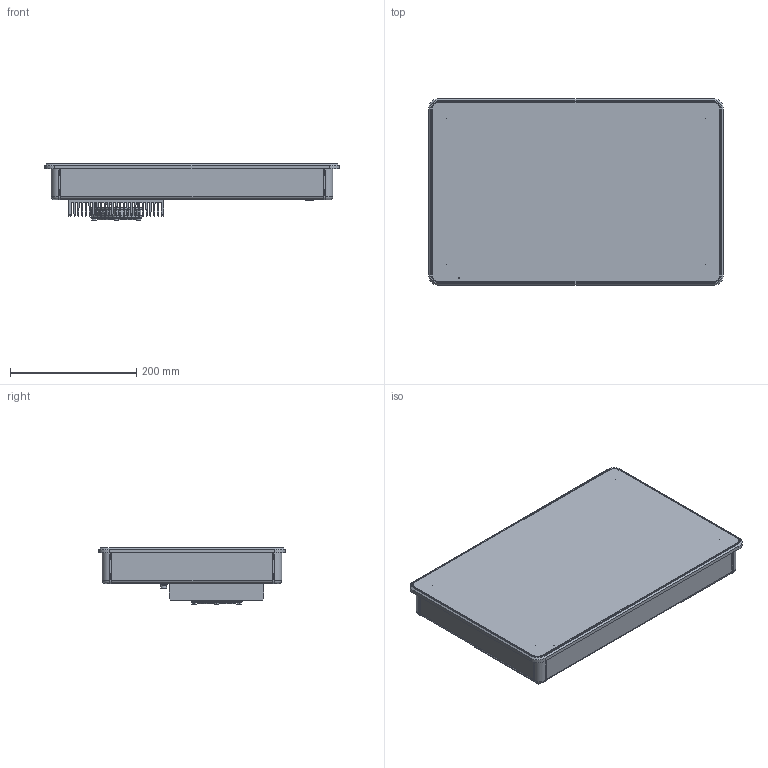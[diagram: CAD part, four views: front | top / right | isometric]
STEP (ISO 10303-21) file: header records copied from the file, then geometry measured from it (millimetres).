
FILE_DESCRIPTION(/* description */ (''),/* implementation_level */ '2;1');
FILE_NAME(/* name */ 'C:\SAPInventorWork\778-41953-00_EXTERN.stp',/* time_stamp */ '2025-01-30T10:55:58+01:00',/* author */ ('Aiple'),/* organization */ (''),/* preprocessor_version */ 'ST-DEVELOPER v18.1',/* originating_system */ 'Autodesk Inventor 2021',/* authorisation */ '');
FILE_SCHEMA (('AUTOMOTIVE_DESIGN { 1 0 10303 214 3 1 1 }'));
Products named in the file (1): 778-41953-00
Bounding box: 466.5 x 295.6 x 89.4 mm (x, y, z)
Volume: 6617403.6 mm3; surface area: 559693.5 mm2
Topology: 9 solids, 107 shells, 8594 faces, 24864 edges, 16484 vertices
Faces by surface type: plane 5255, cylinder 2039, bspline 870, cone 319, torus 78, sphere 33
Full cylindrical faces by diameter (mm): 0.457 x1, 0.65 x16, 0.95 x32, 1.2 x27, 2.156 x2, 2.459 x18, 2.5 x2, 2.8 x6, 2.9 x2, 2.91 x2, 3 x14, 3.242 x10, 3.5 x6, 4 x10, 4.22 x8, 4.3 x12, 4.5 x8, 4.7 x2, 4.767 x6, 4.917 x4, 5 x3, 5.2 x1, 5.3 x2, 5.38 x6, 5.4 x6, 5.54 x8, 5.7 x9, 6.85 x3, 7 x4, 7.06 x1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
Entity records: 311489 total; most frequent: CARTESIAN_POINT 80316, ORIENTED_EDGE 48266, DIRECTION 42334, EDGE_CURVE 24872, LINE 17238, VECTOR 17238, VERTEX_POINT 16516, AXIS2_PLACEMENT_3D 12548
